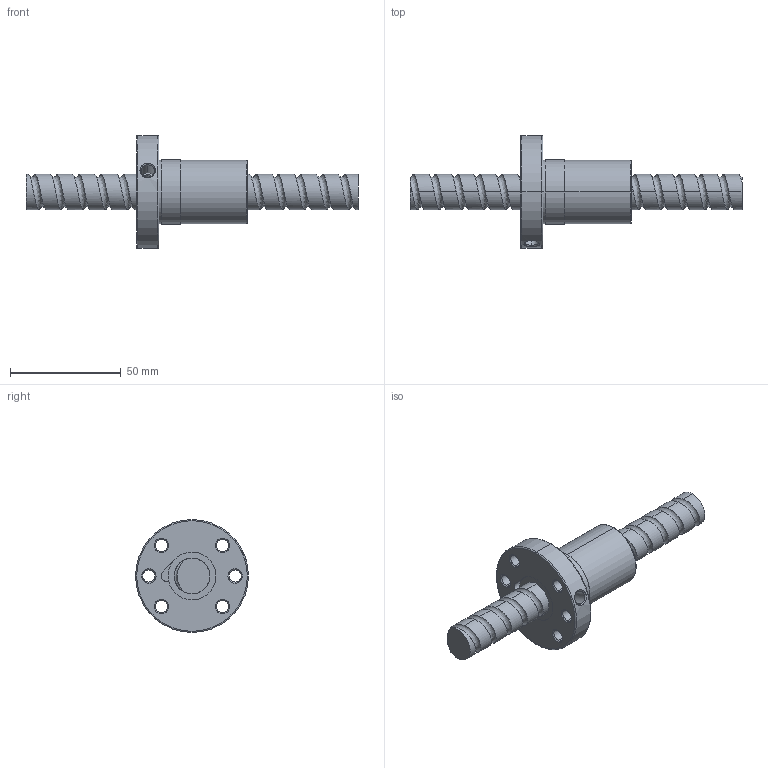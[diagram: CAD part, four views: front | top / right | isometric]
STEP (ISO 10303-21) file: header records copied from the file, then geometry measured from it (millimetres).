
FILE_DESCRIPTION (( 'STEP AP214' ), '1' );
FILE_NAME ('FSDC01610T3-B-A.STEP', '2010-06-25T11:24:22', ( 'XPAUTO' ), ( 'XPAUTO' ), 'SwSTEP 2.0', 'SolidWorks 2007', '' );
FILE_SCHEMA (( 'AUTOMOTIVE_DESIGN' ));
Length unit declared in the file: millimetre
Products named in the file (3): FSDC01610T3-B-A.sldasm-Part-1_預設; FSDC01610T3-B-A; FSDC01610T3-B-A.sldasm-Part-2_預設
Assembly tree (2 placements, depth 2):
  FSDC01610T3-B-A
    FSDC01610T3-B-A.sldasm-Part-1_預設
    FSDC01610T3-B-A.sldasm-Part-2_預設
Bounding box: 150 x 51 x 51 mm (x, y, z)
Volume: 62258.1 mm3; surface area: 21210.7 mm2
Topology: 2 solids, 2 shells, 123 faces, 310 edges, 195 vertices
Faces by surface type: cylinder 71, cone 24, plane 16, bspline 6, torus 6
Entity records: 32076 total; most frequent: CARTESIAN_POINT 29102, ORIENTED_EDGE 620, DIRECTION 586, EDGE_CURVE 310, AXIS2_PLACEMENT_3D 241, VERTEX_POINT 195, EDGE_LOOP 143, ADVANCED_FACE 123
